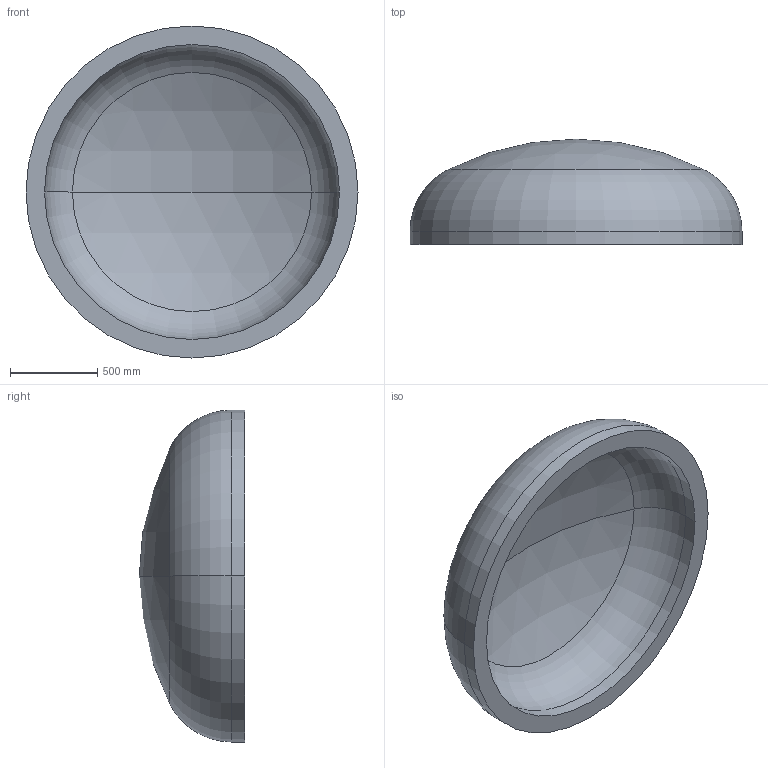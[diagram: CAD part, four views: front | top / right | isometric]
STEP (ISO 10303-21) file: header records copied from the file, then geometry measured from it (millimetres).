
FILE_DESCRIPTION (( 'STEP AP203' ), '1' );
FILE_NAME ('DIN 28013 Korbbogenform_-_Boden DIN 28013 - 1900 x 75 - I - s=106.step', '2016-07-01T13:27:26', ( '' ), ( '' ), 'SwSTEP 2.0', 'SolidWorks 2013', '' );
FILE_SCHEMA (( 'CONFIG_CONTROL_DESIGN' ));
Length unit declared in the file: millimetre
Products named in the file (1): DIN 28013 Korbbogenform_-_Boden DIN 28013 - 1900 x 75 - I - s=106
Bounding box: 1900 x 602.83 x 1900 mm (x, y, z)
Volume: 431675524.9 mm3; surface area: 8765769.5 mm2
Topology: 1 solids, 1 shells, 13 faces, 24 edges, 14 vertices
Faces by surface type: torus 4, cylinder 4, sphere 4, plane 1
Entity records: 407 total; most frequent: DIRECTION 72, CARTESIAN_POINT 52, ORIENTED_EDGE 48, AXIS2_PLACEMENT_3D 34, EDGE_CURVE 24, CIRCLE 20, EDGE_LOOP 14, VERTEX_POINT 14
